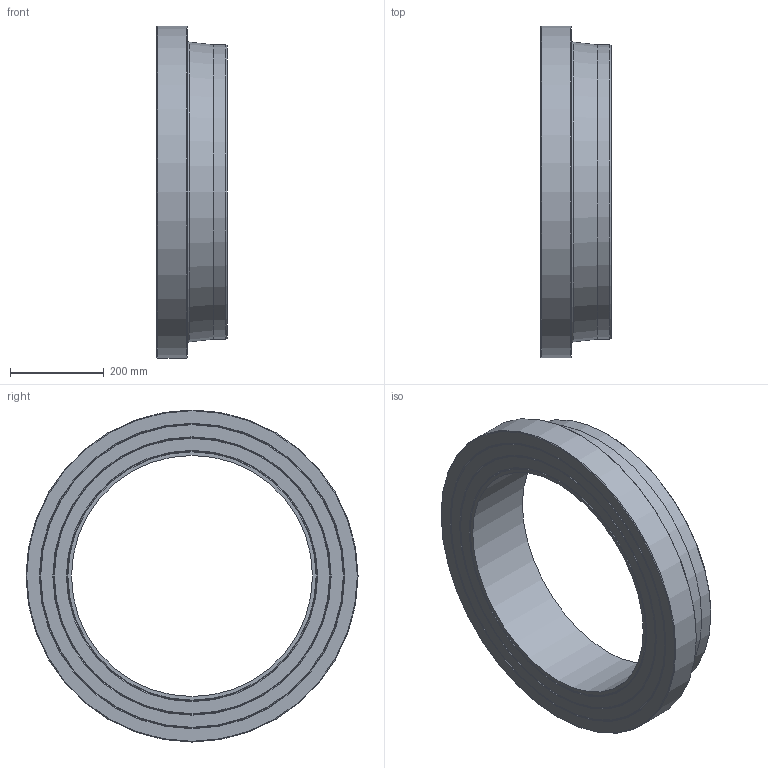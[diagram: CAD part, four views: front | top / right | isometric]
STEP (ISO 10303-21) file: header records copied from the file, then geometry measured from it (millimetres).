
FILE_DESCRIPTION(/* description */ ('Unknown'),/* implementation_level */ '2;1');
FILE_NAME(/* name */ 'CCP630C',/* time_stamp */ '2022-04-04T15:28:34+02:00',/* author */ ('Unknown'),/* organization */ ('Unknown'),/* preprocessor_version */ 'ST-DEVELOPER v18.1',/* originating_system */ 'Solid Edge',/* authorisation */ 'Unknown');
FILE_SCHEMA (('AUTOMOTIVE_DESIGN {1 0 10303 214 3 1 1}'));
Length unit declared in the file: millimetre
Products named in the file (1): CCP630C
Bounding box: 150 x 710 x 710 mm (x, y, z)
Volume: 21232732.9 mm3; surface area: 913328.3 mm2
Topology: 1 solids, 1 shells, 20 faces, 35 edges, 21 vertices
Faces by surface type: cone 10, plane 6, cylinder 3, torus 1
Full cylindrical faces by diameter (mm): 515.6 x1, 630 x1, 710 x1
Entity records: 438 total; most frequent: DIRECTION 82, CARTESIAN_POINT 61, AXIS2_PLACEMENT_3D 41, ORIENTED_EDGE 40, EDGE_LOOP 40, FACE_BOUND 40, EDGE_CURVE 20, VERTEX_POINT 20
